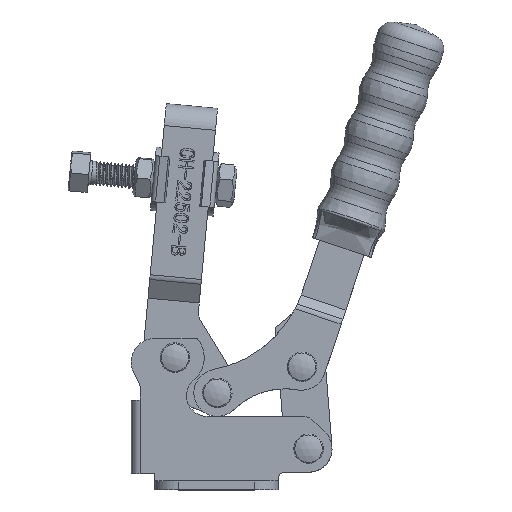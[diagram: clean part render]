
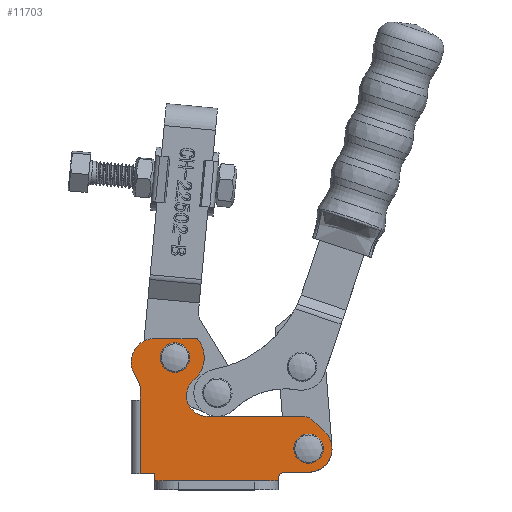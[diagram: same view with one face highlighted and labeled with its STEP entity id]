
A CAD part, top view. The second image highlights one B-rep face of the part: STEP entity #11703.
In plain terms, the highlighted planar face has unit normal (0, 0, 1).
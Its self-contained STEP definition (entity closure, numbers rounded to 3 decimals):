
#1055=FACE_BOUND('',#2251,.T.);
#1056=FACE_BOUND('',#2252,.T.);
#1310=CIRCLE('',#12741,2.);
#1311=CIRCLE('',#12742,8.);
#1312=CIRCLE('',#12743,5.);
#1313=CIRCLE('',#12744,7.004);
#1314=CIRCLE('',#12745,9.996);
#1315=CIRCLE('',#12746,8.);
#1316=CIRCLE('',#12747,2.5);
#1317=CIRCLE('',#12748,3.2);
#1318=CIRCLE('',#12749,3.2);
#1319=CIRCLE('',#12750,3.2);
#1320=CIRCLE('',#12751,3.2);
#1578=FACE_OUTER_BOUND('',#2250,.T.);
#2250=EDGE_LOOP('',(#8800,#8801,#8802,#8803,#8804,#8805,#8806,#8807,#8808,
#8809,#8810,#8811,#8812,#8813,#8814,#8815,#8816,#8817,#8818));
#2251=EDGE_LOOP('',(#8819,#8820));
#2252=EDGE_LOOP('',(#8821,#8822));
#2950=LINE('',#41161,#3915);
#2974=LINE('',#41212,#3939);
#2975=LINE('',#41216,#3940);
#2984=LINE('',#41257,#3949);
#2985=LINE('',#41259,#3950);
#2986=LINE('',#41261,#3951);
#2987=LINE('',#41263,#3952);
#2988=LINE('',#41267,#3953);
#2989=LINE('',#41271,#3954);
#2990=LINE('',#41275,#3955);
#2991=LINE('',#41281,#3956);
#2992=LINE('',#41285,#3957);
#3915=VECTOR('',#14032,1000.);
#3939=VECTOR('',#14100,1000.);
#3940=VECTOR('',#14105,1000.);
#3949=VECTOR('',#14140,1000.);
#3950=VECTOR('',#14141,1000.);
#3951=VECTOR('',#14142,1000.);
#3952=VECTOR('',#14143,1000.);
#3953=VECTOR('',#14146,1000.);
#3954=VECTOR('',#14149,1000.);
#3955=VECTOR('',#14152,1000.);
#3956=VECTOR('',#14157,1000.);
#3957=VECTOR('',#14160,1000.);
#5035=VERTEX_POINT('',#41158);
#5036=VERTEX_POINT('',#41160);
#5041=VERTEX_POINT('',#41210);
#5042=VERTEX_POINT('',#41214);
#5061=VERTEX_POINT('',#41256);
#5062=VERTEX_POINT('',#41258);
#5063=VERTEX_POINT('',#41260);
#5064=VERTEX_POINT('',#41262);
#5065=VERTEX_POINT('',#41264);
#5066=VERTEX_POINT('',#41266);
#5067=VERTEX_POINT('',#41268);
#5068=VERTEX_POINT('',#41270);
#5069=VERTEX_POINT('',#41272);
#5070=VERTEX_POINT('',#41274);
#5071=VERTEX_POINT('',#41276);
#5072=VERTEX_POINT('',#41278);
#5073=VERTEX_POINT('',#41280);
#5074=VERTEX_POINT('',#41282);
#5075=VERTEX_POINT('',#41284);
#5076=VERTEX_POINT('',#41287);
#5077=VERTEX_POINT('',#41288);
#5078=VERTEX_POINT('',#41291);
#5079=VERTEX_POINT('',#41292);
#6399=EDGE_CURVE('',#5036,#5035,#2950,.T.);
#6425=EDGE_CURVE('',#5035,#5041,#2974,.T.);
#6427=EDGE_CURVE('',#5042,#5036,#2975,.T.);
#6447=EDGE_CURVE('',#5061,#5042,#2984,.T.);
#6448=EDGE_CURVE('',#5041,#5062,#2985,.T.);
#6449=EDGE_CURVE('',#5062,#5063,#2986,.T.);
#6450=EDGE_CURVE('',#5063,#5064,#2987,.T.);
#6451=EDGE_CURVE('',#5064,#5065,#1310,.T.);
#6452=EDGE_CURVE('',#5065,#5066,#2988,.T.);
#6453=EDGE_CURVE('',#5066,#5067,#1311,.T.);
#6454=EDGE_CURVE('',#5067,#5068,#2989,.T.);
#6455=EDGE_CURVE('',#5068,#5069,#1312,.T.);
#6456=EDGE_CURVE('',#5069,#5070,#2990,.T.);
#6457=EDGE_CURVE('',#5070,#5071,#1313,.T.);
#6458=EDGE_CURVE('',#5071,#5072,#1314,.T.);
#6459=EDGE_CURVE('',#5072,#5073,#2991,.T.);
#6460=EDGE_CURVE('',#5073,#5074,#1315,.T.);
#6461=EDGE_CURVE('',#5074,#5075,#2992,.T.);
#6462=EDGE_CURVE('',#5075,#5061,#1316,.T.);
#6463=EDGE_CURVE('',#5076,#5077,#1317,.T.);
#6464=EDGE_CURVE('',#5077,#5076,#1318,.T.);
#6465=EDGE_CURVE('',#5078,#5079,#1319,.T.);
#6466=EDGE_CURVE('',#5079,#5078,#1320,.T.);
#8800=ORIENTED_EDGE('',*,*,#6447,.T.);
#8801=ORIENTED_EDGE('',*,*,#6427,.T.);
#8802=ORIENTED_EDGE('',*,*,#6399,.T.);
#8803=ORIENTED_EDGE('',*,*,#6425,.T.);
#8804=ORIENTED_EDGE('',*,*,#6448,.T.);
#8805=ORIENTED_EDGE('',*,*,#6449,.T.);
#8806=ORIENTED_EDGE('',*,*,#6450,.T.);
#8807=ORIENTED_EDGE('',*,*,#6451,.T.);
#8808=ORIENTED_EDGE('',*,*,#6452,.T.);
#8809=ORIENTED_EDGE('',*,*,#6453,.T.);
#8810=ORIENTED_EDGE('',*,*,#6454,.T.);
#8811=ORIENTED_EDGE('',*,*,#6455,.T.);
#8812=ORIENTED_EDGE('',*,*,#6456,.T.);
#8813=ORIENTED_EDGE('',*,*,#6457,.T.);
#8814=ORIENTED_EDGE('',*,*,#6458,.T.);
#8815=ORIENTED_EDGE('',*,*,#6459,.T.);
#8816=ORIENTED_EDGE('',*,*,#6460,.T.);
#8817=ORIENTED_EDGE('',*,*,#6461,.T.);
#8818=ORIENTED_EDGE('',*,*,#6462,.T.);
#8819=ORIENTED_EDGE('',*,*,#6463,.F.);
#8820=ORIENTED_EDGE('',*,*,#6464,.F.);
#8821=ORIENTED_EDGE('',*,*,#6465,.F.);
#8822=ORIENTED_EDGE('',*,*,#6466,.F.);
#11295=PLANE('',#12740);
#11703=ADVANCED_FACE('',(#1578,#1055,#1056),#11295,.T.);
#12740=AXIS2_PLACEMENT_3D('',#41255,#14138,#14139);
#12741=AXIS2_PLACEMENT_3D('',#41265,#14144,#14145);
#12742=AXIS2_PLACEMENT_3D('',#41269,#14147,#14148);
#12743=AXIS2_PLACEMENT_3D('',#41273,#14150,#14151);
#12744=AXIS2_PLACEMENT_3D('',#41277,#14153,#14154);
#12745=AXIS2_PLACEMENT_3D('',#41279,#14155,#14156);
#12746=AXIS2_PLACEMENT_3D('',#41283,#14158,#14159);
#12747=AXIS2_PLACEMENT_3D('',#41286,#14161,#14162);
#12748=AXIS2_PLACEMENT_3D('',#41289,#14163,#14164);
#12749=AXIS2_PLACEMENT_3D('',#41290,#14165,#14166);
#12750=AXIS2_PLACEMENT_3D('',#41293,#14167,#14168);
#12751=AXIS2_PLACEMENT_3D('',#41294,#14169,#14170);
#14032=DIRECTION('',(1.,0.,0.));
#14100=DIRECTION('',(0.,-1.,0.));
#14105=DIRECTION('',(0.,-1.,0.));
#14138=DIRECTION('center_axis',(0.,0.,1.));
#14139=DIRECTION('ref_axis',(1.,0.,0.));
#14140=DIRECTION('',(0.,-1.,0.));
#14141=DIRECTION('',(1.,0.,0.));
#14142=DIRECTION('',(1.,0.,0.));
#14143=DIRECTION('',(0.,1.,0.));
#14144=DIRECTION('center_axis',(0.,0.,-1.));
#14145=DIRECTION('ref_axis',(-1.,0.,0.));
#14146=DIRECTION('',(1.,0.,0.));
#14147=DIRECTION('center_axis',(0.,0.,1.));
#14148=DIRECTION('ref_axis',(1.,0.,0.));
#14149=DIRECTION('',(-0.728,0.686,0.));
#14150=DIRECTION('center_axis',(0.,0.,1.));
#14151=DIRECTION('ref_axis',(-1.,0.,0.));
#14152=DIRECTION('',(-1.,0.,0.));
#14153=DIRECTION('center_axis',(0.,0.,-1.));
#14154=DIRECTION('ref_axis',(1.,0.,0.));
#14155=DIRECTION('center_axis',(0.,0.,1.));
#14156=DIRECTION('ref_axis',(1.,0.,0.));
#14157=DIRECTION('',(-1.,0.,0.));
#14158=DIRECTION('center_axis',(0.,0.,1.));
#14159=DIRECTION('ref_axis',(1.,0.,0.));
#14160=DIRECTION('',(0.453,-0.892,0.));
#14161=DIRECTION('center_axis',(0.,0.,-1.));
#14162=DIRECTION('ref_axis',(1.,0.,0.));
#14163=DIRECTION('center_axis',(0.,0.,1.));
#14164=DIRECTION('ref_axis',(1.,0.,0.));
#14165=DIRECTION('center_axis',(0.,0.,1.));
#14166=DIRECTION('ref_axis',(1.,0.,0.));
#14167=DIRECTION('center_axis',(0.,0.,1.));
#14168=DIRECTION('ref_axis',(1.,0.,0.));
#14169=DIRECTION('center_axis',(0.,0.,1.));
#14170=DIRECTION('ref_axis',(1.,0.,0.));
#41158=CARTESIAN_POINT('',(0.,2.5,12.));
#41160=CARTESIAN_POINT('',(-5.,2.5,12.));
#41161=CARTESIAN_POINT('',(0.,2.5,12.));
#41210=CARTESIAN_POINT('',(0.,0.,12.));
#41212=CARTESIAN_POINT('',(0.,0.,12.));
#41214=CARTESIAN_POINT('',(-5.,27.5,12.));
#41216=CARTESIAN_POINT('',(-5.,2.5,12.));
#41255=CARTESIAN_POINT('Origin',(-7.5,31.902,12.));
#41256=CARTESIAN_POINT('',(-5.,31.902,12.));
#41257=CARTESIAN_POINT('',(-5.,27.5,12.));
#41258=CARTESIAN_POINT('',(41.993,0.,12.));
#41259=CARTESIAN_POINT('',(0.,0.,12.));
#41260=CARTESIAN_POINT('',(42.,0.,12.));
#41261=CARTESIAN_POINT('',(0.,0.,12.));
#41262=CARTESIAN_POINT('',(42.,1.,12.));
#41263=CARTESIAN_POINT('',(42.,0.,12.));
#41264=CARTESIAN_POINT('',(44.,3.,12.));
#41265=CARTESIAN_POINT('Origin',(44.,1.,12.));
#41266=CARTESIAN_POINT('',(52.29,3.,12.));
#41267=CARTESIAN_POINT('',(44.,3.,12.));
#41268=CARTESIAN_POINT('',(57.777,16.822,12.));
#41269=CARTESIAN_POINT('Origin',(52.29,11.,12.));
#41270=CARTESIAN_POINT('',(53.731,20.635,12.));
#41271=CARTESIAN_POINT('',(53.731,20.635,12.));
#41272=CARTESIAN_POINT('',(50.302,21.996,12.));
#41273=CARTESIAN_POINT('Origin',(50.302,16.996,12.));
#41274=CARTESIAN_POINT('',(17.75,21.996,12.));
#41275=CARTESIAN_POINT('',(17.75,21.996,12.));
#41276=CARTESIAN_POINT('',(13.357,34.455,12.));
#41277=CARTESIAN_POINT('Origin',(17.75,29.,12.));
#41278=CARTESIAN_POINT('',(14.394,48.5,12.));
#41279=CARTESIAN_POINT('Origin',(6.8,42.,12.));
#41280=CARTESIAN_POINT('',(-0.09,48.5,12.));
#41281=CARTESIAN_POINT('',(-0.09,48.5,12.));
#41282=CARTESIAN_POINT('',(-7.243,36.918,12.));
#41283=CARTESIAN_POINT('Origin',(-0.09,40.5,12.));
#41284=CARTESIAN_POINT('',(-5.271,33.034,12.));
#41285=CARTESIAN_POINT('',(-5.271,33.034,12.));
#41286=CARTESIAN_POINT('Origin',(-7.5,31.902,12.));
#41287=CARTESIAN_POINT('',(3.6,42.,12.));
#41288=CARTESIAN_POINT('',(10.,42.,12.));
#41289=CARTESIAN_POINT('Origin',(6.8,42.,12.));
#41290=CARTESIAN_POINT('Origin',(6.8,42.,12.));
#41291=CARTESIAN_POINT('',(49.09,11.,12.));
#41292=CARTESIAN_POINT('',(55.49,11.,12.));
#41293=CARTESIAN_POINT('Origin',(52.29,11.,12.));
#41294=CARTESIAN_POINT('Origin',(52.29,11.,12.));
